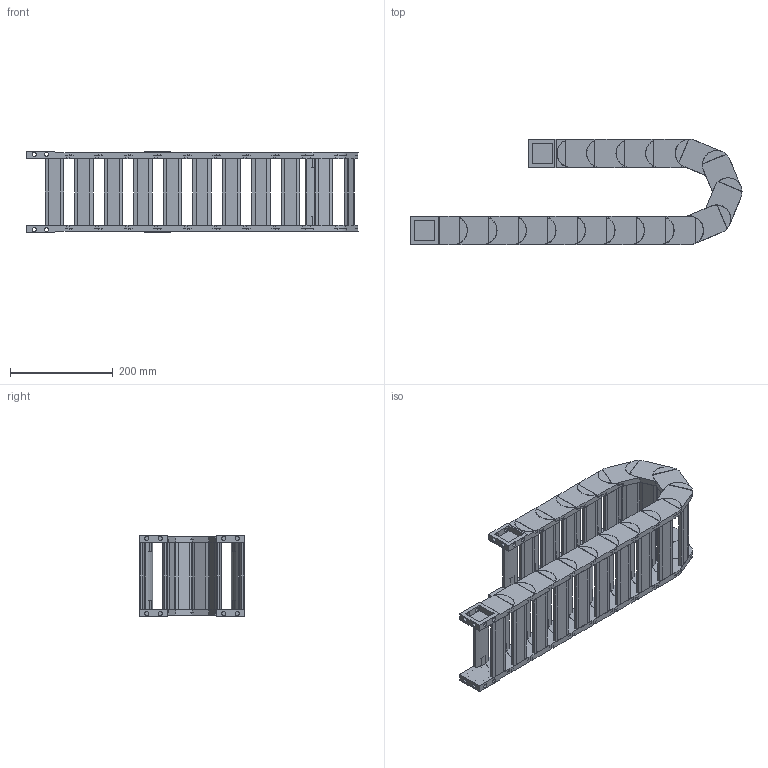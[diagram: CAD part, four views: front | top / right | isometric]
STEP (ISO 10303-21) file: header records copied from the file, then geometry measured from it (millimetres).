
FILE_DESCRIPTION((''),'2;1');
FILE_NAME('HD35-R75-ZPT_ASM','2022-06-17T14:01:25',('admin'),(''),'CREO PARAMETRIC BY PTC INC, 2021164','CREO PARAMETRIC BY PTC INC, 2021164','');
FILE_SCHEMA(('CONFIG_CONTROL_DESIGN','GEOMETRIC_VALIDATION_PROPERTIES_MIM'));
Length unit declared in the file: millimetre
Products named in the file (6): HD35; 35-600001; HD35_ASM; 35-TL_11; 35-WL; HD35-R75-ZPT_ASM
Assembly tree (22 placements, depth 3):
  HD35-R75-ZPT_ASM
    HD35_ASM  x16
      HD35
      35-600001
    35-TL_11
    35-WL
    35-600001  x2
Bounding box: 646.69 x 205 x 158.5 mm (x, y, z)
Volume: 2825883.5 mm3; surface area: 989842.4 mm2
Topology: 72 solids, 72 shells, 1354 faces, 3602 edges, 2468 vertices
Faces by surface type: plane 918, cylinder 436
Entity records: 9383 total; most frequent: DIRECTION 1418, CARTESIAN_POINT 1408, ORIENTED_EDGE 1300, EDGE_CURVE 650, AXIS2_PLACEMENT_3D 504, VERTEX_POINT 440, VECTOR 410, LINE 410
